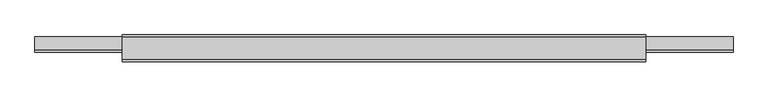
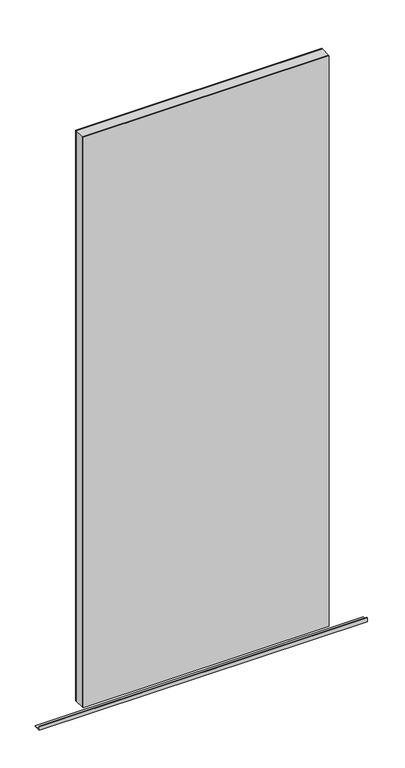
"""IFC4 building model written with IfcOpenShell, lengths in millimetres: proxy geometry, Renson_Amani_Loggia_Canvas_Sliding : Renson_Amani_Loggia_Canvas_Sliding."""

from ifc_helpers import new_model, si_unit, frame, origin, place, context, project, spatial, polyline, outline, extrude, source, transform, mapped, element, save


def generic_models_0f0d1031(model_context):
    return source(origin(), model_context, "Body", "SweptSolid", [
        extrude(outline(polyline([(-5.9889767, 15.0), (-2.9889767, 15.0), (-2.9889767, 3.0), (20.0110233, 3.0), (20.0110233, 0.0), (-5.9889767, 0.0), (-5.9889767, 15.0)])), frame((-600.0, 0.0, 0.0), z_axis=(1.0, 0.0, 0.0), x_axis=(0.0, 1.0, 0.0)), (0.0, 0.0, 1.0), 1200.0),
        extrude(outline(polyline([(450.0, 20.0), (-450.0, 20.0), (-450.0, 23.0), (450.0, 23.0), (450.0, 20.0)])), frame((0.0, 0.0, 45.0), z_axis=(0.0, 0.0, 1.0), x_axis=(1.0, 0.0, 0.0)), (0.0, 0.0, 1.0), 2205.0),
        extrude(outline(polyline([(450.0, -23.0), (-450.0, -23.0), (-450.0, -20.0), (450.0, -20.0), (450.0, -23.0)])), frame((0.0, 0.0, 45.0), z_axis=(0.0, 0.0, 1.0), x_axis=(1.0, 0.0, 0.0)), (0.0, 0.0, 1.0), 2205.0),
        extrude(outline(polyline([(2250.0, -450.0), (45.0, -450.0), (45.0, 450.0), (2250.0, 450.0), (2250.0, -450.0)]), holes=[polyline([(2210.0, 410.0), (85.0, 410.0), (85.0, -410.0), (2210.0, -410.0), (2210.0, 410.0)])]), frame((0.0, -20.0, 0.0), z_axis=(0.0, 1.0, 0.0), x_axis=(0.0, 0.0, 1.0)), (0.0, 0.0, 1.0), 40.0),
    ])


if __name__ == "__main__":
    model = new_model("IFC4")
    model_context = context("Model", 3, world=origin())
    ifc_project = project(units=[si_unit("LENGTHUNIT", "METRE", prefix="MILLI")], contexts=[model_context])
    site = spatial("IfcSite", under=ifc_project)
    building = spatial("IfcBuilding", under=site)
    placement = place(None, origin())
    generic_models_shape = generic_models_0f0d1031(model_context)
    element("IfcBuildingElementProxy", 1, Name="Renson_Amani_Loggia_Canvas_Sliding : Renson_Amani_Loggia_Canvas_Sliding", ObjectType="Renson_Amani_Loggia_Canvas_Sliding : Renson_Amani_Loggia_Canvas_Sliding", at=placement, inside=building, context=model_context, shape_type="MappedRepresentation", body=[
        mapped(generic_models_shape, transform((0.0, 0.0, 0.0), x_axis=(1.0, 0.0, 0.0), y_axis=(0.0, 1.0, 0.0), z_axis=(0.0, 0.0, 1.0))),
    ])
    save(model, "model.ifc")
